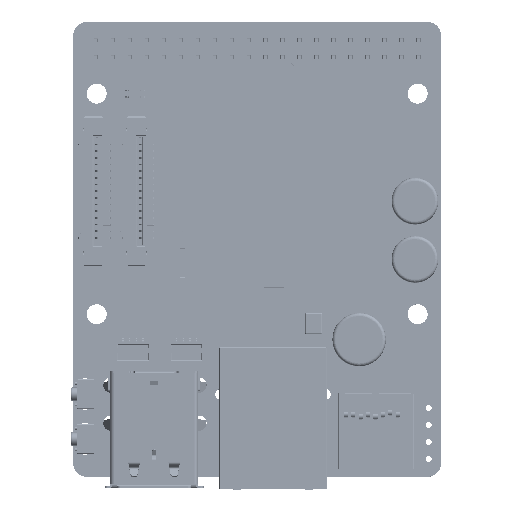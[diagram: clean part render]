
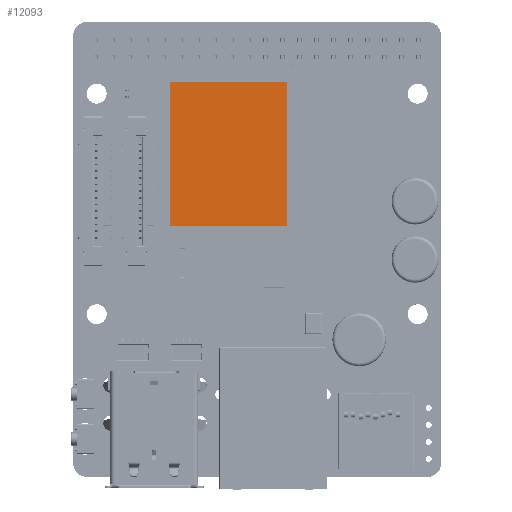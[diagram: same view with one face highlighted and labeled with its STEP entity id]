
A CAD part, top view. The second image highlights one B-rep face of the part: STEP entity #12093.
In plain terms, the highlighted planar face has unit normal (0, 0, 1).
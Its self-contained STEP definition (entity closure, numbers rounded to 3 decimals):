
#5852=DIRECTION('',(1.,0.,0.));
#5853=VECTOR('',#5852,17.5);
#5854=CARTESIAN_POINT('',(14.471,37.471,4.2));
#5855=LINE('',#5854,#5853);
#5859=DIRECTION('',(0.,-1.,0.));
#5860=VECTOR('',#5859,21.5);
#5861=CARTESIAN_POINT('',(14.471,58.971,4.2));
#5862=LINE('',#5861,#5860);
#5866=DIRECTION('',(-1.,0.,0.));
#5867=VECTOR('',#5866,17.5);
#5868=CARTESIAN_POINT('',(31.971,58.971,4.2));
#5869=LINE('',#5868,#5867);
#5873=DIRECTION('',(0.,1.,0.));
#5874=VECTOR('',#5873,21.5);
#5875=CARTESIAN_POINT('',(31.971,37.471,4.2));
#5876=LINE('',#5875,#5874);
#7054=CARTESIAN_POINT('',(14.471,37.471,4.2));
#7055=CARTESIAN_POINT('',(31.971,37.471,4.2));
#7056=VERTEX_POINT('',#7054);
#7057=VERTEX_POINT('',#7055);
#7058=CARTESIAN_POINT('',(31.971,58.971,4.2));
#7059=VERTEX_POINT('',#7058);
#7060=CARTESIAN_POINT('',(14.471,58.971,4.2));
#7061=VERTEX_POINT('',#7060);
#12082=CARTESIAN_POINT('',(0.,0.,4.2));
#12083=DIRECTION('',(0.,0.,1.));
#12084=DIRECTION('',(0.,1.,0.));
#12085=AXIS2_PLACEMENT_3D('',#12082,#12083,#12084);
#12086=PLANE('',#12085);
#12087=ORIENTED_EDGE('',*,*,#11986,.F.);
#12088=ORIENTED_EDGE('',*,*,#12013,.F.);
#12089=ORIENTED_EDGE('',*,*,#12039,.F.);
#12090=ORIENTED_EDGE('',*,*,#12064,.F.);
#12091=EDGE_LOOP('',(#12087,#12088,#12089,#12090));
#12092=FACE_OUTER_BOUND('',#12091,.F.);
#12093=ADVANCED_FACE('',(#12092),#12086,.T.);
#11986=EDGE_CURVE('',#7056,#7057,#5855,.T.);
#12013=EDGE_CURVE('',#7061,#7056,#5862,.T.);
#12039=EDGE_CURVE('',#7059,#7061,#5869,.T.);
#12064=EDGE_CURVE('',#7057,#7059,#5876,.T.);
